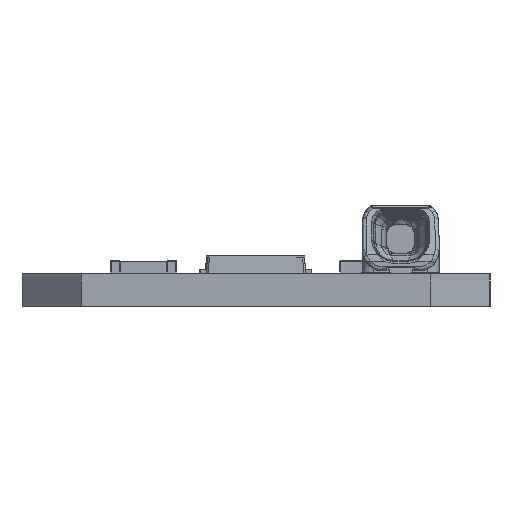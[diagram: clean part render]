
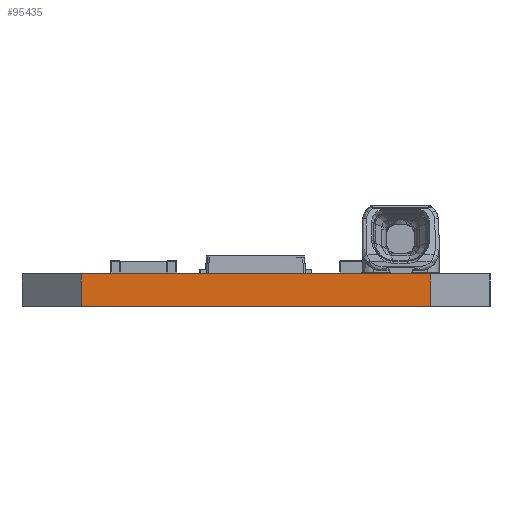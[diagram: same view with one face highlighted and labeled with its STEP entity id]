
A CAD part, left-side view. The second image highlights one B-rep face of the part: STEP entity #95435.
In plain terms, the highlighted planar face has unit normal (-1, 0, 0).
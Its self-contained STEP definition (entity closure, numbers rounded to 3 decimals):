
#4417=DIRECTION('',(0.,0.,1.));
#4418=VECTOR('',#4417,1.65);
#4419=CARTESIAN_POINT('',(-279.5,8.8,0.));
#4420=LINE('',#4419,#4418);
#4424=DIRECTION('',(0.,-1.,0.));
#4425=VECTOR('',#4424,17.6);
#4426=CARTESIAN_POINT('',(-279.5,8.8,1.65));
#4427=LINE('',#4426,#4425);
#4431=DIRECTION('',(0.,0.,1.));
#4432=VECTOR('',#4431,1.65);
#4433=CARTESIAN_POINT('',(-279.5,-8.8,0.));
#4434=LINE('',#4433,#4432);
#4701=DIRECTION('',(0.,-1.,0.));
#4702=VECTOR('',#4701,17.6);
#4703=CARTESIAN_POINT('',(-279.5,8.8,0.));
#4704=LINE('',#4703,#4702);
#79946=CARTESIAN_POINT('',(-279.5,-8.8,1.65));
#79947=VERTEX_POINT('',#79946);
#79948=CARTESIAN_POINT('',(-279.5,8.8,1.65));
#79949=VERTEX_POINT('',#79948);
#82030=CARTESIAN_POINT('',(-279.5,8.8,0.));
#82031=VERTEX_POINT('',#82030);
#82032=CARTESIAN_POINT('',(-279.5,-8.8,0.));
#82033=VERTEX_POINT('',#82032);
#95422=CARTESIAN_POINT('',(-279.5,0.,0.825));
#95423=DIRECTION('',(1.,0.,0.));
#95424=DIRECTION('',(0.,0.,1.));
#95425=AXIS2_PLACEMENT_3D('',#95422,#95423,#95424);
#95426=PLANE('',#95425);
#95428=ORIENTED_EDGE('',*,*,#95427,.F.);
#95430=ORIENTED_EDGE('',*,*,#95429,.F.);
#95431=ORIENTED_EDGE('',*,*,#95406,.T.);
#95432=ORIENTED_EDGE('',*,*,#92310,.T.);
#95433=EDGE_LOOP('',(#95428,#95430,#95431,#95432));
#95434=FACE_OUTER_BOUND('',#95433,.F.);
#92310=EDGE_CURVE('',#79949,#79947,#4427,.T.);
#95406=EDGE_CURVE('',#82031,#79949,#4420,.T.);
#95427=EDGE_CURVE('',#82033,#79947,#4434,.T.);
#95429=EDGE_CURVE('',#82031,#82033,#4704,.T.);
#95435=ADVANCED_FACE('',(#95434),#95426,.F.);
